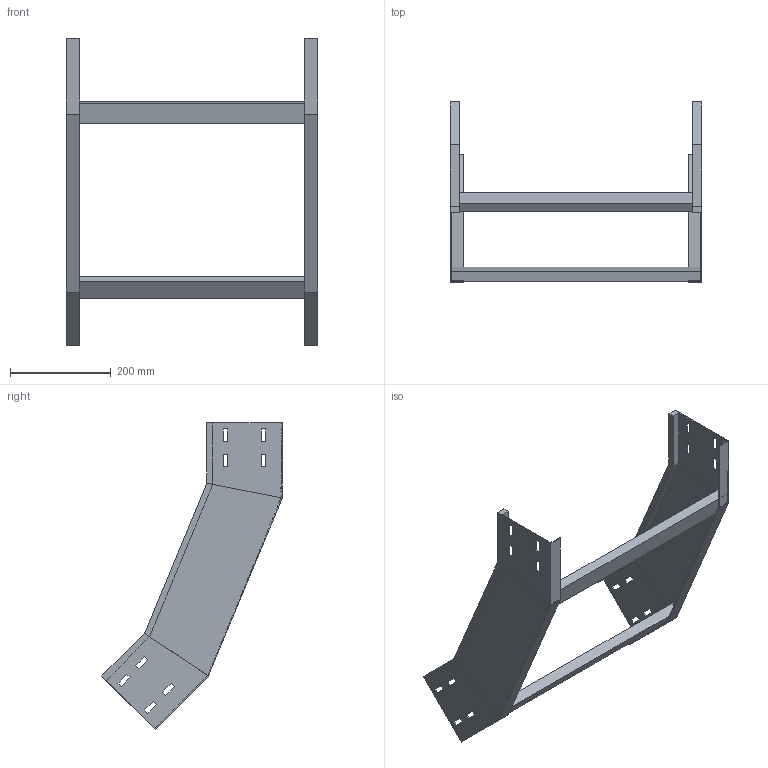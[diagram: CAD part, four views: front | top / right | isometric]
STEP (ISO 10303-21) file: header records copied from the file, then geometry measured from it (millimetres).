
FILE_DESCRIPTION (( 'STEP AP214' ), '1' );
FILE_NAME ('31J5F500.step', '2025-02-21T16:26:22', ( '' ), ( '' ), 'SwSTEP 2.0', 'SolidWorks 2023', '' );
FILE_SCHEMA (( 'AUTOMOTIVE_DESIGN' ));
Length unit declared in the file: millimetre
Products named in the file (3): 31J5F500; LONGH.SALITA_45°_H150_R500; TRAVERSINO_500
Assembly tree (4 placements, depth 2):
  31J5F500
    LONGH.SALITA_45°_H150_R500  x2
    TRAVERSINO_500  x2
Bounding box: 500 x 358.7 x 609.91 mm (x, y, z)
Volume: 1456812 mm3; surface area: 603998.1 mm2
Topology: 4 solids, 4 shells, 128 faces, 328 edges, 208 vertices
Faces by surface type: plane 128
Entity records: 2016 total; most frequent: CARTESIAN_POINT 339, ORIENTED_EDGE 328, DIRECTION 306, LINE 164, EDGE_CURVE 164, VECTOR 164, VERTEX_POINT 104, EDGE_LOOP 80
